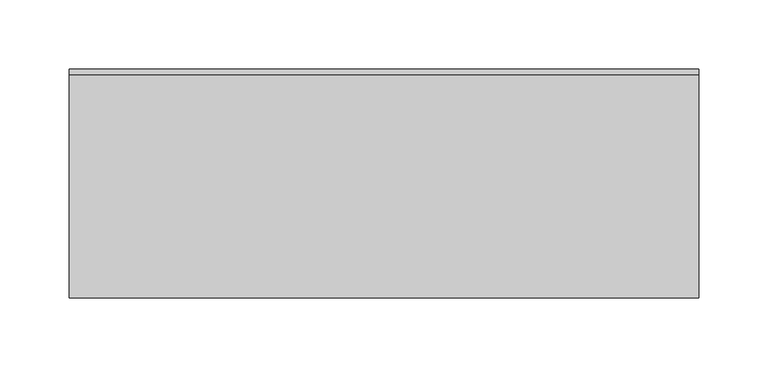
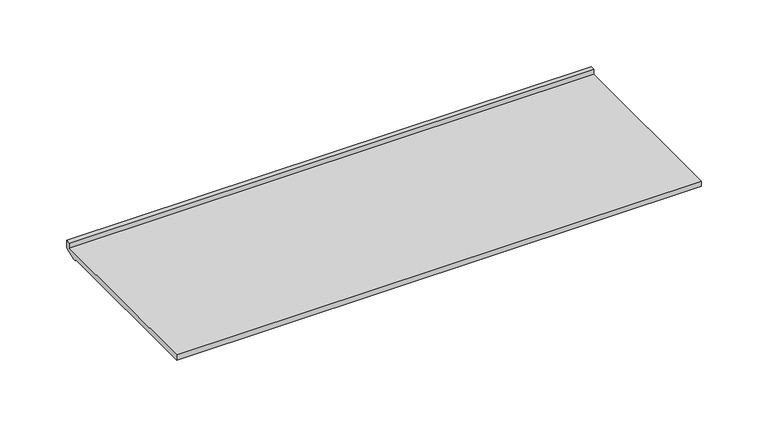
"""IFC4 building model written with IfcOpenShell, lengths in millimetres: furniture geometry, Geiger_GeigerOneCasegoods_Casegoods_AccessoryShelf : 17.875Wx 6.5Dx 0.375H."""

from ifc_helpers import new_model, si_unit, frame, origin, place, context, project, spatial, polyline, outline, extrude, source, transform, mapped, element, save


def furniture_2c6be22b(model_context):
    return source(origin(), model_context, "Body", "SweptSolid", [
        extrude(outline(polyline([(-4.0132, 4.9784), (-4.0132, 9.525), (0.0, 9.525), (0.0, 4.0894), (-0.2794, 3.0734), (-1.0414, 2.3114), (-10.5156, -1.524), (-12.4968, -1.524), (-12.4968, 0.0), (-165.1, 0.0), (-165.1, 4.9784), (-4.0132, 4.9784)])), frame((0.0, 0.0, 0.0), z_axis=(1.0, 0.0, 0.0), x_axis=(0.0, 1.0, 0.0)), (0.0, 0.0, 1.0), 454.025),
    ])


if __name__ == "__main__":
    model = new_model("IFC4")
    model_context = context("Model", 3, world=origin())
    ifc_project = project(units=[si_unit("LENGTHUNIT", "METRE", prefix="MILLI")], contexts=[model_context])
    site = spatial("IfcSite", under=ifc_project)
    building = spatial("IfcBuilding", under=site)
    placement = place(None, origin())
    furniture_shape = furniture_2c6be22b(model_context)
    element("IfcFurniture", 1, ObjectType="Geiger_GeigerOneCasegoods_Casegoods_AccessoryShelf : 17.875Wx 6.5Dx 0.375H", at=placement, inside=building, context=model_context, shape_type="MappedRepresentation", body=[
        mapped(furniture_shape, transform((0.0, 0.0, 0.0), x_axis=(1.0, 0.0, 0.0), y_axis=(0.0, 1.0, 0.0), z_axis=(0.0, 0.0, 1.0))),
    ])
    save(model, "model.ifc")
